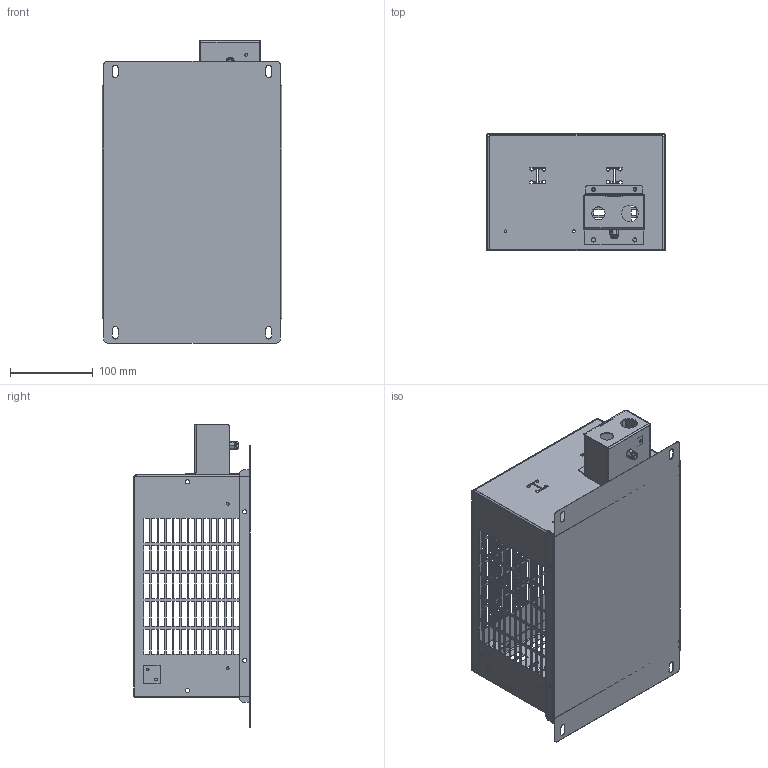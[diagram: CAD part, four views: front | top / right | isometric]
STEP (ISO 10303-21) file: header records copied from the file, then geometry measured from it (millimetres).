
FILE_DESCRIPTION(/* description */ (''),/* implementation_level */ '2;1');
FILE_NAME(/* name */ 'C:\_Vault\Dati\CATALOGO\RME\CT MARZO 2015\Assieme1-2L\Assieme2M.stp',/* time_stamp */ '2017-11-10T09:48:38+01:00',/* author */ ('Diego'),/* organization */ ('Fairfild Srl'),/* preprocessor_version */ 'ST-DEVELOPER v16.5',/* originating_system */ 'Autodesk Inventor 2017',/* authorisation */ '');
FILE_SCHEMA (('CONFIG_CONTROL_DESIGN'));
Products named in the file (1): Assieme2M
Bounding box: 216.5 x 140.9 x 364.3 mm (x, y, z)
Volume: 208721 mm3; surface area: 505374.4 mm2
Topology: 3 solids, 3 shells, 2761 faces, 7844 edges, 5222 vertices
Faces by surface type: plane 1961, bspline 640, cylinder 151, cone 8, torus 1
Full cylindrical faces by diameter (mm): 3 x3, 3.2 x11, 3.3 x2, 3.5 x1, 4.2 x3, 4.5 x3, 5 x27, 6 x1, 7.5 x1, 16 x1, 19 x1, 20 x1
Entity records: 95621 total; most frequent: CARTESIAN_POINT 24118, ORIENTED_EDGE 15564, DIRECTION 11042, EDGE_CURVE 7782, LINE 6170, VECTOR 6170, VERTEX_POINT 5218, EDGE_LOOP 3588
